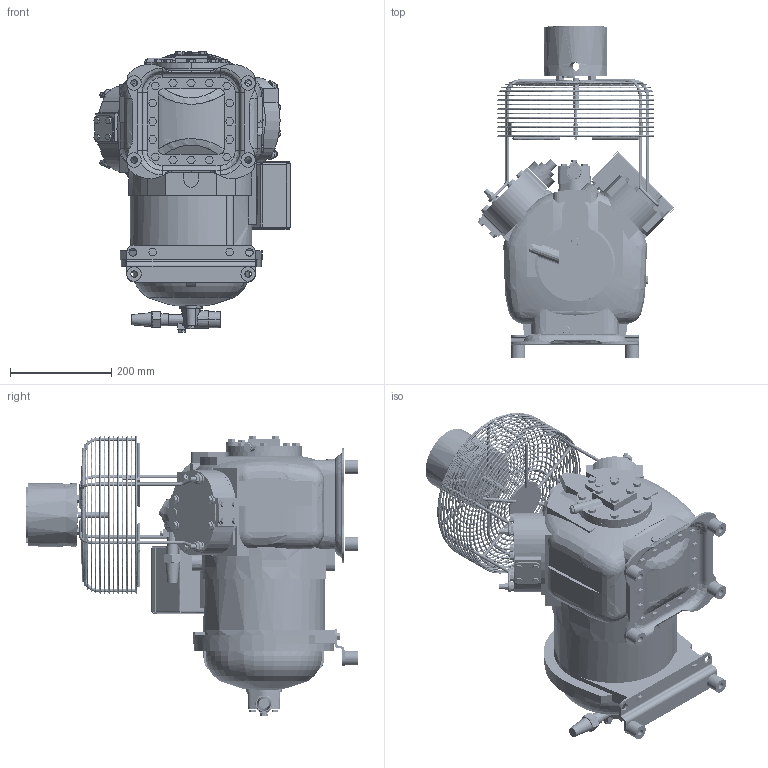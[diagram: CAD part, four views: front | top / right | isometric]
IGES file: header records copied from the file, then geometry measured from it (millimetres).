
Start section:  PTC IGES file: 06d41es9f_sv_4fn_sw_3_igss.igs
Global section: file name: 06d41es9f_sv_4fn_sw_3_igss.igs; native system: Pro/ENGINEER by Parametric Technology Corporation; preprocessor: 2001280; author: manikandanm; organization: Unknown; date: 040122.174532; units: inch
Bounding box: 389.42 x 655.78 x 554.71 mm (x, y, z)
Surface area: 1581549.6 mm2 (no closed solid volume)
Topology: 0 solids, 0 shells, 1548 faces, 8045 edges, 8043 vertices
Faces by surface type: bspline 910, revolution 638
